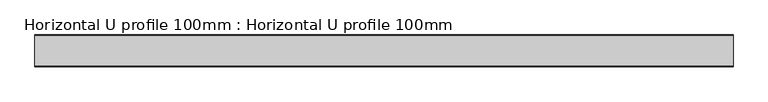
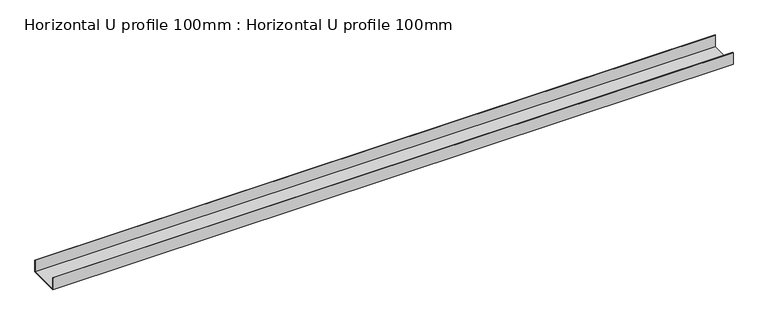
"""IFC4 building model written with IfcOpenShell, lengths in millimetres: proxy geometry, Horizontal U profile 100mm : Horizontal U profile 100mm."""

from ifc_helpers import new_model, si_unit, frame, origin, place, context, project, spatial, polyline, outline, extrude, source, transform, mapped, element, save


def horizontal_u_profile_100mm_horizontal_u_profile_100mm_49c979f2(model_context):
    return source(origin(), model_context, "Body", "SweptSolid", [
        extrude(outline(polyline([(-50.0, 0.0), (-50.0, 40.0), (-49.2, 40.0), (-49.2, 0.8), (49.2, 0.8), (49.2, 40.0), (50.0, 40.0), (50.0, 0.0), (-50.0, 0.0)])), frame((0.0, 0.0, 0.0), z_axis=(1.0, 0.0, 0.0), x_axis=(0.0, 1.0, 0.0)), (0.0, 0.0, 1.0), 2200.9638387),
    ])


if __name__ == "__main__":
    model = new_model("IFC4")
    model_context = context("Model", 3, world=origin())
    ifc_project = project(units=[si_unit("LENGTHUNIT", "METRE", prefix="MILLI")], contexts=[model_context])
    site = spatial("IfcSite", under=ifc_project)
    building = spatial("IfcBuilding", under=site)
    placement = place(None, origin())
    horizontal_u_profile_100mm_horizontal_u_profile_100mm_shape = horizontal_u_profile_100mm_horizontal_u_profile_100mm_49c979f2(model_context)
    element("IfcBuildingElementProxy", 1, Name="Horizontal U profile 100mm : Horizontal U profile 100mm", ObjectType="Horizontal U profile 100mm : Horizontal U profile 100mm", at=placement, inside=building, context=model_context, shape_type="MappedRepresentation", body=[
        mapped(horizontal_u_profile_100mm_horizontal_u_profile_100mm_shape, transform((0.0, 0.0, 0.0), x_axis=(1.0, 0.0, 0.0), y_axis=(0.0, 1.0, 0.0), z_axis=(0.0, 0.0, 1.0))),
    ])
    save(model, "model.ifc")
